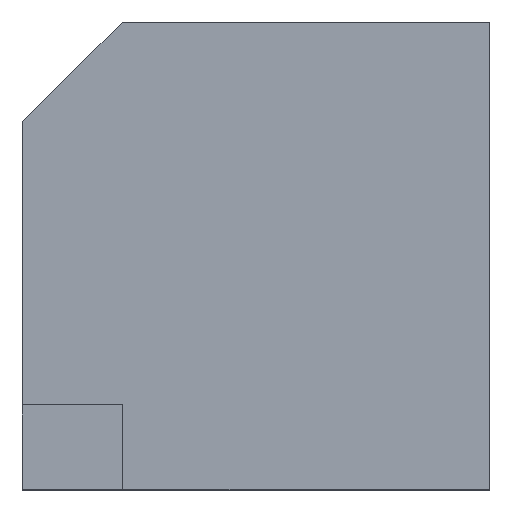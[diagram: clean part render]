
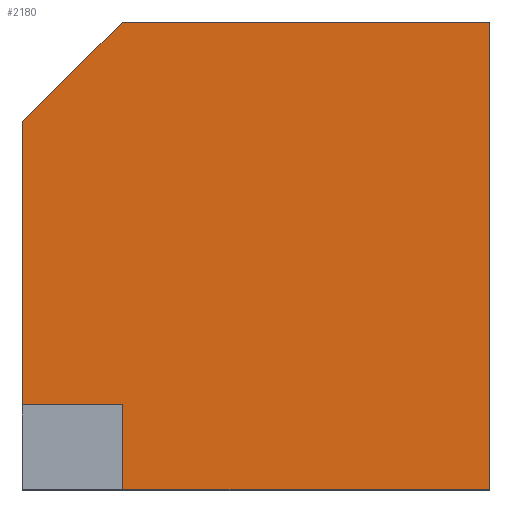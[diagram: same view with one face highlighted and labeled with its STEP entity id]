
A CAD part, top view. The second image highlights one B-rep face of the part: STEP entity #2180.
In plain terms, the highlighted planar face has unit normal (0, 0, 1).
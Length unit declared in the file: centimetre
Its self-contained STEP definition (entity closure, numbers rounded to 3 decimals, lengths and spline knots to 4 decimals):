
#43 = CARTESIAN_POINT ( 'NONE',  ( 1000., 1000., 1000. ) ) ;
#46 = LINE ( 'NONE', #1986, #2281 ) ;
#53 = LINE ( 'NONE', #934, #531 ) ;
#68 = EDGE_CURVE ( 'NONE', #1792, #1911, #1661, .T. ) ;
#118 = VECTOR ( 'NONE', #548, 100. ) ;
#166 = VERTEX_POINT ( 'NONE', #404 ) ;
#167 = LINE ( 'NONE', #1228, #1428 ) ;
#182 = EDGE_CURVE ( 'NONE', #521, #1705, #53, .T. ) ;
#216 = CARTESIAN_POINT ( 'NONE',  ( 0., 0., 1000. ) ) ;
#282 = EDGE_CURVE ( 'NONE', #166, #521, #167, .T. ) ;
#308 = CARTESIAN_POINT ( 'NONE',  ( 214.7985, 180.5915, 1000. ) ) ;
#336 = DIRECTION ( 'NONE',  ( 0., 1., 0. ) ) ;
#364 = CARTESIAN_POINT ( 'NONE',  ( 0., 786.4867, 1000. ) ) ;
#404 = CARTESIAN_POINT ( 'NONE',  ( 1000., 1000., 1000. ) ) ;
#453 = ORIENTED_EDGE ( 'NONE', *, *, #1600, .T. ) ;
#521 = VERTEX_POINT ( 'NONE', #641 ) ;
#531 = VECTOR ( 'NONE', #1125, 100. ) ;
#548 = DIRECTION ( 'NONE',  ( 0., -1., 0. ) ) ;
#641 = CARTESIAN_POINT ( 'NONE',  ( 213.5133, 1000., 1000. ) ) ;
#715 = LINE ( 'NONE', #43, #861 ) ;
#733 = DIRECTION ( 'NONE',  ( 1., 0., 0. ) ) ;
#835 = DIRECTION ( 'NONE',  ( -1., 0., 0. ) ) ;
#861 = VECTOR ( 'NONE', #1801, 100. ) ;
#889 = EDGE_LOOP ( 'NONE', ( #1672, #2099, #1908, #453, #1775, #2095, #1728 ) ) ;
#934 = CARTESIAN_POINT ( 'NONE',  ( -393.2434, 393.2434, 1000. ) ) ;
#1074 = AXIS2_PLACEMENT_3D ( 'NONE', #216, #1301, #733 ) ;
#1080 = LINE ( 'NONE', #2029, #118 ) ;
#1081 = LINE ( 'NONE', #2300, #2155 ) ;
#1105 = FACE_OUTER_BOUND ( 'NONE', #889, .T. ) ;
#1111 = CARTESIAN_POINT ( 'NONE',  ( 214.7985, 180.5915, 1000. ) ) ;
#1119 = VERTEX_POINT ( 'NONE', #2133 ) ;
#1124 = EDGE_CURVE ( 'NONE', #1705, #1911, #1080, .T. ) ;
#1125 = DIRECTION ( 'NONE',  ( -0.707, -0.707, 0. ) ) ;
#1228 = CARTESIAN_POINT ( 'NONE',  ( 0., 1000., 1000. ) ) ;
#1301 = DIRECTION ( 'NONE',  ( 0., 0., 1. ) ) ;
#1428 = VECTOR ( 'NONE', #1945, 100. ) ;
#1510 = VERTEX_POINT ( 'NONE', #1632 ) ;
#1537 = CARTESIAN_POINT ( 'NONE',  ( 0., 180.5915, 1000. ) ) ;
#1600 = EDGE_CURVE ( 'NONE', #1119, #166, #715, .T. ) ;
#1624 = PLANE ( 'NONE',  #1074 ) ;
#1632 = CARTESIAN_POINT ( 'NONE',  ( 214.7985, 0., 1000. ) ) ;
#1661 = LINE ( 'NONE', #1111, #1772 ) ;
#1672 = ORIENTED_EDGE ( 'NONE', *, *, #68, .F. ) ;
#1705 = VERTEX_POINT ( 'NONE', #364 ) ;
#1720 = EDGE_CURVE ( 'NONE', #1510, #1792, #1081, .T. ) ;
#1728 = ORIENTED_EDGE ( 'NONE', *, *, #1124, .T. ) ;
#1772 = VECTOR ( 'NONE', #835, 100. ) ;
#1775 = ORIENTED_EDGE ( 'NONE', *, *, #282, .T. ) ;
#1792 = VERTEX_POINT ( 'NONE', #308 ) ;
#1801 = DIRECTION ( 'NONE',  ( 0., 1., 0. ) ) ;
#1908 = ORIENTED_EDGE ( 'NONE', *, *, #2170, .T. ) ;
#1911 = VERTEX_POINT ( 'NONE', #1537 ) ;
#1945 = DIRECTION ( 'NONE',  ( -1., 0., 0. ) ) ;
#1986 = CARTESIAN_POINT ( 'NONE',  ( 0., 0., 1000. ) ) ;
#2029 = CARTESIAN_POINT ( 'NONE',  ( 0., 1000., 1000. ) ) ;
#2095 = ORIENTED_EDGE ( 'NONE', *, *, #182, .T. ) ;
#2099 = ORIENTED_EDGE ( 'NONE', *, *, #1720, .F. ) ;
#2133 = CARTESIAN_POINT ( 'NONE',  ( 1000., 0., 1000. ) ) ;
#2155 = VECTOR ( 'NONE', #336, 100. ) ;
#2158 = DIRECTION ( 'NONE',  ( 1., 0., 0. ) ) ;
#2170 = EDGE_CURVE ( 'NONE', #1510, #1119, #46, .T. ) ;
#2180 = ADVANCED_FACE ( 'NONE', ( #1105 ), #1624, .T. ) ;
#2281 = VECTOR ( 'NONE', #2158, 100. ) ;
#2300 = CARTESIAN_POINT ( 'NONE',  ( 214.7985, 0., 1000. ) ) ;
